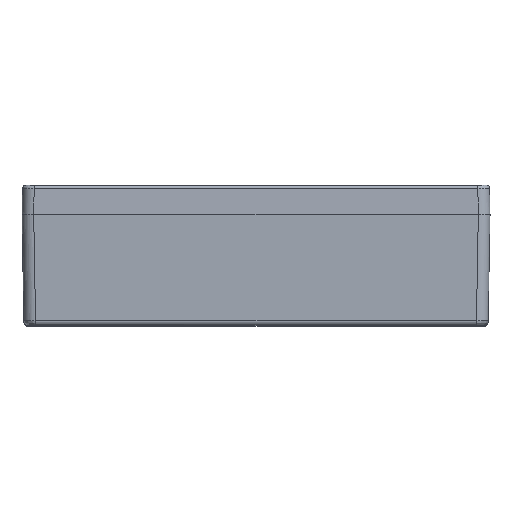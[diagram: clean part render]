
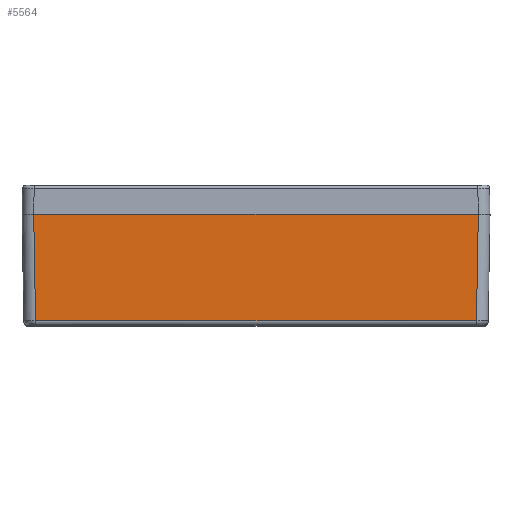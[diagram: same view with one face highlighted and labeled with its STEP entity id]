
A CAD part, top view. The second image highlights one B-rep face of the part: STEP entity #5564.
In plain terms, the highlighted planar face has unit normal (0, -0.018, 1).
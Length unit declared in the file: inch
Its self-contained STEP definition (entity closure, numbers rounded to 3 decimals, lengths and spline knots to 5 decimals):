
#538 = LINE ( 'NONE', #7832, #539 ) ;
#539 = VECTOR ( 'NONE', #7831, 39.37008 ) ;
#540 = LINE ( 'NONE', #7829, #541 ) ;
#541 = VECTOR ( 'NONE', #7828, 39.37008 ) ;
#1131 = LINE ( 'NONE', #7856, #1132 ) ;
#1132 = VECTOR ( 'NONE', #7854, 39.37008 ) ;
#2501 = AXIS2_PLACEMENT_3D ( 'NONE', #13158, #13157, #13156 ) ;
#2708 = FACE_OUTER_BOUND ( 'NONE', #8532, .T. ) ;
#4031 = ORIENTED_EDGE ( 'NONE', *, *, #4373, .T. ) ;
#4032 = ORIENTED_EDGE ( 'NONE', *, *, #11748, .F. ) ;
#4033 = ORIENTED_EDGE ( 'NONE', *, *, #11749, .F. ) ;
#4034 = ORIENTED_EDGE ( 'NONE', *, *, #11744, .T. ) ;
#4373 = EDGE_CURVE ( 'NONE', #9326, #9366, #4655, .T. ) ;
#4655 = LINE ( 'NONE', #5835, #4657 ) ;
#4657 = VECTOR ( 'NONE', #5811, 39.37008 ) ;
#5564 = ADVANCED_FACE ( 'NONE', ( #2708 ), #13162, .T. ) ;
#5811 = DIRECTION ( 'NONE',  ( -1., 0., 0. ) ) ;
#5835 = CARTESIAN_POINT ( 'NONE',  ( -8.20921, 0., 7.97244 ) ) ;
#7828 = DIRECTION ( 'NONE',  ( -1., 0., 0. ) ) ;
#7829 = CARTESIAN_POINT ( 'NONE',  ( 7.53422, -3.58543, 7.90986 ) ) ;
#7831 = DIRECTION ( 'NONE',  ( -0.017, -1., -0.017 ) ) ;
#7832 = CARTESIAN_POINT ( 'NONE',  ( 7.48105, 0.03857, 7.97311 ) ) ;
#7854 = DIRECTION ( 'NONE',  ( 0.017, -1., -0.017 ) ) ;
#7856 = CARTESIAN_POINT ( 'NONE',  ( -7.48037, 0., 7.97244 ) ) ;
#8532 = EDGE_LOOP ( 'NONE', ( #4034, #4033, #4032, #4031 ) ) ;
#9326 = VERTEX_POINT ( 'NONE', #11700 ) ;
#9328 = VERTEX_POINT ( 'NONE', #11698 ) ;
#9343 = VERTEX_POINT ( 'NONE', #11677 ) ;
#9366 = VERTEX_POINT ( 'NONE', #11645 ) ;
#11645 = CARTESIAN_POINT ( 'NONE',  ( -7.48037, 0., 7.97244 ) ) ;
#11677 = CARTESIAN_POINT ( 'NONE',  ( -7.41779, -3.58543, 7.90985 ) ) ;
#11698 = CARTESIAN_POINT ( 'NONE',  ( 7.41779, -3.58543, 7.90985 ) ) ;
#11700 = CARTESIAN_POINT ( 'NONE',  ( 7.48037, 0., 7.97244 ) ) ;
#11744 = EDGE_CURVE ( 'NONE', #9366, #9343, #1131, .T. ) ;
#11748 = EDGE_CURVE ( 'NONE', #9326, #9328, #538, .T. ) ;
#11749 = EDGE_CURVE ( 'NONE', #9328, #9343, #540, .T. ) ;
#13156 = DIRECTION ( 'NONE',  ( 0., -1., -0.017 ) ) ;
#13157 = DIRECTION ( 'NONE',  ( 0., -0.017, 1. ) ) ;
#13158 = CARTESIAN_POINT ( 'NONE',  ( -8.20921, 0., 7.97244 ) ) ;
#13162 = PLANE ( 'NONE',  #2501 ) ;
